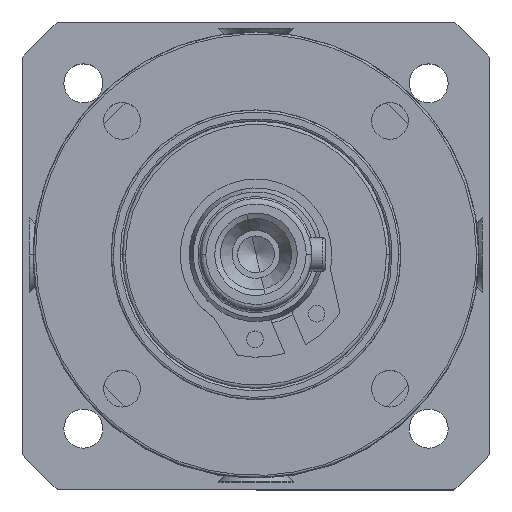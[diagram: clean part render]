
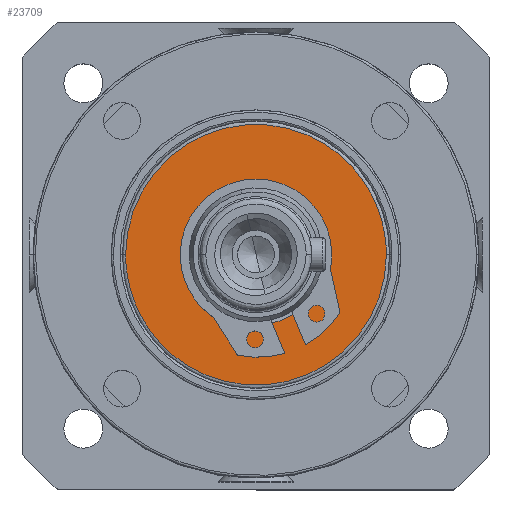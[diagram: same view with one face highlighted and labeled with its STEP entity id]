
A CAD part, top view. The second image highlights one B-rep face of the part: STEP entity #23709.
In plain terms, the highlighted planar face has unit normal (0, 0, 1).
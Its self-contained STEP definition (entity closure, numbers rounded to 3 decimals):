
#292 = CARTESIAN_POINT ( 'NONE',  ( 6.89, 13.862, 46.25 ) ) ;
#1288 = EDGE_CURVE ( 'NONE', #44205, #3670, #37023, .T. ) ;
#3670 = VERTEX_POINT ( 'NONE', #51616 ) ;
#6189 = DIRECTION ( 'NONE',  ( 0., 0., -1. ) ) ;
#6414 = CARTESIAN_POINT ( 'NONE',  ( 1.49, 13.862, 46.25 ) ) ;
#8084 = CARTESIAN_POINT ( 'NONE',  ( -16.51, 13.862, 46.25 ) ) ;
#9145 = CARTESIAN_POINT ( 'NONE',  ( 1.49, 26.462, 46.25 ) ) ;
#9298 = ORIENTED_EDGE ( 'NONE', *, *, #43574, .F. ) ;
#9890 = EDGE_LOOP ( 'NONE', ( #9298, #35722 ) ) ;
#14079 = ORIENTED_EDGE ( 'NONE', *, *, #21781, .F. ) ;
#15398 = CARTESIAN_POINT ( 'NONE',  ( -16.51, 37.262, 46.25 ) ) ;
#16790 = CARTESIAN_POINT ( 'NONE',  ( 6.89, -9.538, 46.25 ) ) ;
#16931 = AXIS2_PLACEMENT_3D ( 'NONE', #30241, #6189, #50753 ) ;
#17434 = CARTESIAN_POINT ( 'NONE',  ( -11.11, 13.862, 46.25 ) ) ;
#18035 = CARTESIAN_POINT ( 'NONE',  ( -11.11, 13.862, 46.25 ) ) ;
#18224 = CARTESIAN_POINT ( 'NONE',  ( 1.49, 13.862, 46.25 ) ) ;
#18632 = VERTEX_POINT ( 'NONE', #18035 ) ;
#19014 =( BOUNDED_CURVE ( )  B_SPLINE_CURVE ( 3, ( #51232, #38727, #42688, #6414 ),
 .UNSPECIFIED., .F., .T. ) 
 B_SPLINE_CURVE_WITH_KNOTS ( ( 4, 4 ),
 ( 0., 1. ),
 .UNSPECIFIED. ) 
 CURVE ( )  GEOMETRIC_REPRESENTATION_ITEM ( )  RATIONAL_B_SPLINE_CURVE ( ( 1., 0.333, 0.333, 1. ) ) 
 REPRESENTATION_ITEM ( '' )  );
#20853 = CARTESIAN_POINT ( 'NONE',  ( -16.51, 13.862, 46.25 ) ) ;
#21781 = EDGE_CURVE ( 'NONE', #3670, #44205, #33740, .T. ) ;
#21988 = PLANE ( 'NONE',  #16931 ) ;
#22586 = CARTESIAN_POINT ( 'NONE',  ( 1.49, 13.862, 46.25 ) ) ;
#23709 = ADVANCED_FACE ( 'NONE', ( #25724, #42188 ), #21988, .F. ) ;
#25724 = FACE_OUTER_BOUND ( 'NONE', #37490, .T. ) ;
#29243 = ORIENTED_EDGE ( 'NONE', *, *, #1288, .F. ) ;
#30241 = CARTESIAN_POINT ( 'NONE',  ( -4.81, 25.562, 46.25 ) ) ;
#30471 =( BOUNDED_CURVE ( )  B_SPLINE_CURVE ( 3, ( #18224, #9145, #34511, #17434 ),
 .UNSPECIFIED., .F., .T. ) 
 B_SPLINE_CURVE_WITH_KNOTS ( ( 4, 4 ),
 ( 0., 1. ),
 .UNSPECIFIED. ) 
 CURVE ( )  GEOMETRIC_REPRESENTATION_ITEM ( )  RATIONAL_B_SPLINE_CURVE ( ( 1., 0.333, 0.333, 1. ) ) 
 REPRESENTATION_ITEM ( '' )  );
#31218 = CARTESIAN_POINT ( 'NONE',  ( 6.89, 37.262, 46.25 ) ) ;
#32254 = CARTESIAN_POINT ( 'NONE',  ( 6.89, 13.862, 46.25 ) ) ;
#33740 =( BOUNDED_CURVE ( )  B_SPLINE_CURVE ( 3, ( #292, #16790, #44793, #20853 ),
 .UNSPECIFIED., .F., .F. ) 
 B_SPLINE_CURVE_WITH_KNOTS ( ( 4, 4 ),
 ( 0., 1. ),
 .UNSPECIFIED. ) 
 CURVE ( )  GEOMETRIC_REPRESENTATION_ITEM ( )  RATIONAL_B_SPLINE_CURVE ( ( 1., 0.333, 0.333, 1. ) ) 
 REPRESENTATION_ITEM ( '' )  );
#34511 = CARTESIAN_POINT ( 'NONE',  ( -11.11, 26.462, 46.25 ) ) ;
#35722 = ORIENTED_EDGE ( 'NONE', *, *, #39439, .F. ) ;
#37023 =( BOUNDED_CURVE ( )  B_SPLINE_CURVE ( 3, ( #43708, #15398, #31218, #32254 ),
 .UNSPECIFIED., .F., .T. ) 
 B_SPLINE_CURVE_WITH_KNOTS ( ( 4, 4 ),
 ( 0., 1. ),
 .UNSPECIFIED. ) 
 CURVE ( )  GEOMETRIC_REPRESENTATION_ITEM ( )  RATIONAL_B_SPLINE_CURVE ( ( 1., 0.333, 0.333, 1. ) ) 
 REPRESENTATION_ITEM ( '' )  );
#37490 = EDGE_LOOP ( 'NONE', ( #14079, #29243 ) ) ;
#38727 = CARTESIAN_POINT ( 'NONE',  ( -11.11, 1.262, 46.25 ) ) ;
#39062 = VERTEX_POINT ( 'NONE', #22586 ) ;
#39439 = EDGE_CURVE ( 'NONE', #39062, #18632, #30471, .T. ) ;
#42188 = FACE_BOUND ( 'NONE', #9890, .T. ) ;
#42688 = CARTESIAN_POINT ( 'NONE',  ( 1.49, 1.262, 46.25 ) ) ;
#43574 = EDGE_CURVE ( 'NONE', #18632, #39062, #19014, .T. ) ;
#43708 = CARTESIAN_POINT ( 'NONE',  ( -16.51, 13.862, 46.25 ) ) ;
#44205 = VERTEX_POINT ( 'NONE', #8084 ) ;
#44793 = CARTESIAN_POINT ( 'NONE',  ( -16.51, -9.538, 46.25 ) ) ;
#50753 = DIRECTION ( 'NONE',  ( -1., 0., 0. ) ) ;
#51232 = CARTESIAN_POINT ( 'NONE',  ( -11.11, 13.862, 46.25 ) ) ;
#51616 = CARTESIAN_POINT ( 'NONE',  ( 6.89, 13.862, 46.25 ) ) ;
